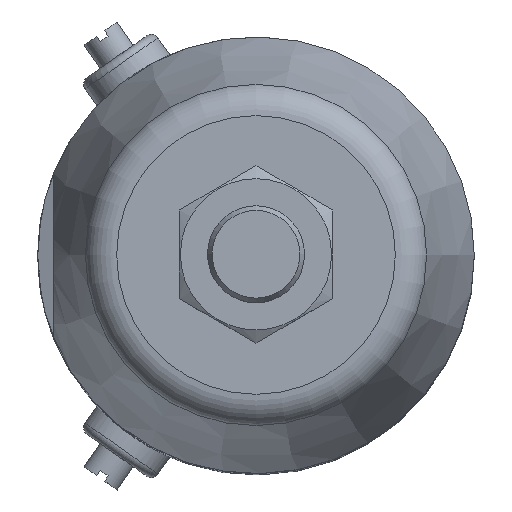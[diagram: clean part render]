
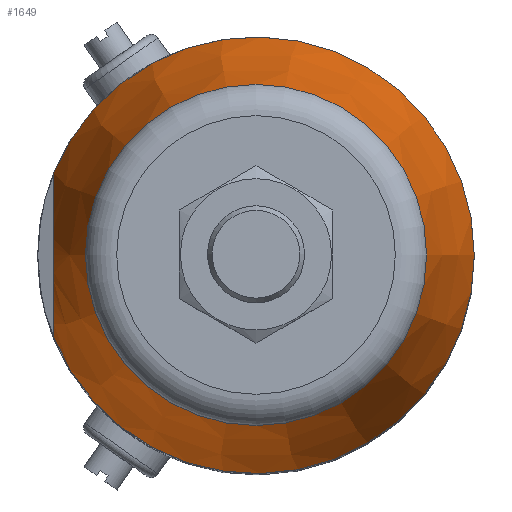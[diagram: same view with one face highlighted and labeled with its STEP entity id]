
A CAD part, top view. The second image highlights one B-rep face of the part: STEP entity #1649.
In plain terms, the highlighted conical face has half-angle 15 degrees and reference radius 24.048 mm.
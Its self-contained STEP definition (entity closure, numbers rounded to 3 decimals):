
#59=(
BOUNDED_CURVE()
B_SPLINE_CURVE(2,(#2779,#2780,#2781),.UNSPECIFIED.,.F.,.F.)
B_SPLINE_CURVE_WITH_KNOTS((3,3),(0.606,3.641),
 .UNSPECIFIED.)
CURVE()
GEOMETRIC_REPRESENTATION_ITEM()
RATIONAL_B_SPLINE_CURVE((1.04,1.123,1.04))
REPRESENTATION_ITEM('')
);
#91=CONICAL_SURFACE('',#1855,24.048,15.);
#397=FACE_BOUND('',#656,.T.);
#486=FACE_OUTER_BOUND('',#655,.T.);
#655=EDGE_LOOP('',(#1411,#1412));
#656=EDGE_LOOP('',(#1413));
#757=CIRCLE('',#1853,27.);
#758=CIRCLE('',#1856,21.096);
#866=VERTEX_POINT('',#2777);
#867=VERTEX_POINT('',#2778);
#887=VERTEX_POINT('',#2877);
#1043=EDGE_CURVE('',#866,#867,#59,.T.);
#1069=EDGE_CURVE('',#867,#866,#757,.T.);
#1070=EDGE_CURVE('',#887,#887,#758,.T.);
#1411=ORIENTED_EDGE('',*,*,#1043,.T.);
#1412=ORIENTED_EDGE('',*,*,#1069,.T.);
#1413=ORIENTED_EDGE('',*,*,#1070,.F.);
#1649=ADVANCED_FACE('',(#486,#397),#91,.T.);
#1853=AXIS2_PLACEMENT_3D('',#2874,#2285,#2286);
#1855=AXIS2_PLACEMENT_3D('',#2876,#2289,#2290);
#1856=AXIS2_PLACEMENT_3D('',#2878,#2291,#2292);
#2285=DIRECTION('center_axis',(-1.,0.,0.));
#2286=DIRECTION('ref_axis',(0.,0.,1.));
#2289=DIRECTION('center_axis',(1.,0.,0.));
#2290=DIRECTION('ref_axis',(0.,0.,1.));
#2291=DIRECTION('center_axis',(-1.,0.,0.));
#2292=DIRECTION('ref_axis',(0.,0.,1.));
#2777=CARTESIAN_POINT('',(-20.,-10.198,25.));
#2778=CARTESIAN_POINT('',(-20.,10.198,25.));
#2779=CARTESIAN_POINT('Ctrl Pts',(-20.,-10.198,25.));
#2780=CARTESIAN_POINT('Ctrl Pts',(-34.375,0.,
25.));
#2781=CARTESIAN_POINT('Ctrl Pts',(-20.,10.198,25.));
#2874=CARTESIAN_POINT('Origin',(-20.,0.,0.));
#2876=CARTESIAN_POINT('Origin',(-31.018,0.,0.));
#2877=CARTESIAN_POINT('',(-42.035,0.,21.096));
#2878=CARTESIAN_POINT('Origin',(-42.035,0.,0.));
